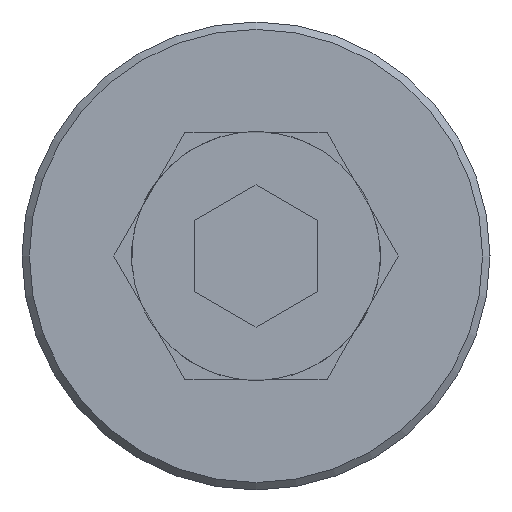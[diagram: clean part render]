
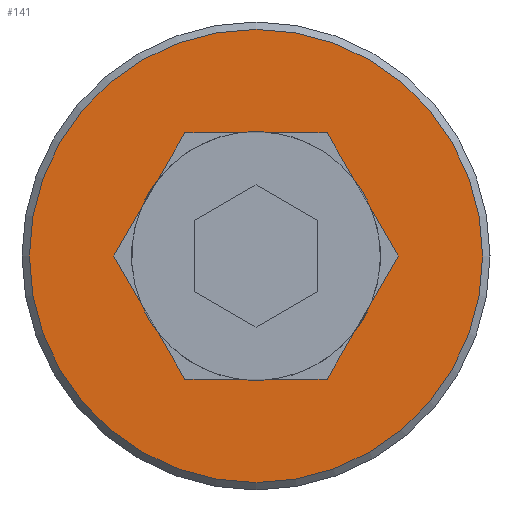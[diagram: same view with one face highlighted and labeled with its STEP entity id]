
A CAD part, left-side view. The second image highlights one B-rep face of the part: STEP entity #141.
In plain terms, the highlighted planar face has unit normal (-1, 0, 0).
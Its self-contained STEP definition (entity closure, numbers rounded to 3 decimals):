
#141 = ADVANCED_FACE( '', ( #294, #295 ), #296, .F. );
#294 = FACE_OUTER_BOUND( '', #441, .T. );
#295 = FACE_BOUND( '', #442, .T. );
#296 = PLANE( '', #443 );
#441 = EDGE_LOOP( '', ( #752 ) );
#442 = EDGE_LOOP( '', ( #753, #754, #755, #756, #757, #758, #759, #760, #761, #762, #763, #764, #765, #766, #767, #768, #769, #770 ) );
#443 = AXIS2_PLACEMENT_3D( '', #771, #772, #773 );
#752 = ORIENTED_EDGE( '', *, *, #866, .F. );
#753 = ORIENTED_EDGE( '', *, *, #886, .T. );
#754 = ORIENTED_EDGE( '', *, *, #913, .T. );
#755 = ORIENTED_EDGE( '', *, *, #837, .T. );
#756 = ORIENTED_EDGE( '', *, *, #895, .T. );
#757 = ORIENTED_EDGE( '', *, *, #803, .T. );
#758 = ORIENTED_EDGE( '', *, *, #901, .T. );
#759 = ORIENTED_EDGE( '', *, *, #893, .T. );
#760 = ORIENTED_EDGE( '', *, *, #859, .T. );
#761 = ORIENTED_EDGE( '', *, *, #796, .T. );
#762 = ORIENTED_EDGE( '', *, *, #892, .T. );
#763 = ORIENTED_EDGE( '', *, *, #812, .T. );
#764 = ORIENTED_EDGE( '', *, *, #842, .T. );
#765 = ORIENTED_EDGE( '', *, *, #890, .T. );
#766 = ORIENTED_EDGE( '', *, *, #831, .T. );
#767 = ORIENTED_EDGE( '', *, *, #910, .T. );
#768 = ORIENTED_EDGE( '', *, *, #888, .T. );
#769 = ORIENTED_EDGE( '', *, *, #844, .T. );
#770 = ORIENTED_EDGE( '', *, *, #880, .T. );
#771 = CARTESIAN_POINT( '', ( 0., 0., 0. ) );
#772 = DIRECTION( '', ( 1., 0., 0. ) );
#773 = DIRECTION( '', ( 0., 0., -1. ) );
#796 = EDGE_CURVE( '', #931, #929, #932, .T. );
#803 = EDGE_CURVE( '', #942, #943, #944, .T. );
#812 = EDGE_CURVE( '', #956, #957, #958, .T. );
#831 = EDGE_CURVE( '', #988, #989, #990, .T. );
#837 = EDGE_CURVE( '', #999, #997, #1000, .T. );
#842 = EDGE_CURVE( '', #957, #1005, #1007, .T. );
#844 = EDGE_CURVE( '', #1009, #1010, #1011, .T. );
#859 = EDGE_CURVE( '', #1033, #931, #1034, .T. );
#866 = EDGE_CURVE( '', #1044, #1044, #1045, .T. );
#880 = EDGE_CURVE( '', #1010, #1061, #1063, .T. );
#886 = EDGE_CURVE( '', #1061, #1071, #1072, .T. );
#888 = EDGE_CURVE( '', #1074, #1009, #1075, .T. );
#890 = EDGE_CURVE( '', #1005, #988, #1077, .T. );
#892 = EDGE_CURVE( '', #929, #956, #1079, .T. );
#893 = EDGE_CURVE( '', #1080, #1033, #1081, .T. );
#895 = EDGE_CURVE( '', #997, #942, #1083, .T. );
#901 = EDGE_CURVE( '', #943, #1080, #1089, .T. );
#910 = EDGE_CURVE( '', #989, #1074, #1099, .T. );
#913 = EDGE_CURVE( '', #1071, #999, #1102, .T. );
#929 = VERTEX_POINT( '', #1121 );
#931 = VERTEX_POINT( '', #1124 );
#932 = LINE( '', #1125, #1126 );
#942 = VERTEX_POINT( '', #1139 );
#943 = VERTEX_POINT( '', #1140 );
#944 = LINE( '', #1141, #1142 );
#956 = VERTEX_POINT( '', #1156 );
#957 = VERTEX_POINT( '', #1157 );
#958 = LINE( '', #1158, #1159 );
#988 = VERTEX_POINT( '', #1198 );
#989 = VERTEX_POINT( '', #1199 );
#990 = LINE( '', #1200, #1201 );
#997 = VERTEX_POINT( '', #1211 );
#999 = VERTEX_POINT( '', #1214 );
#1000 = LINE( '', #1215, #1216 );
#1005 = VERTEX_POINT( '', #1223 );
#1007 = LINE( '', #1226, #1227 );
#1009 = VERTEX_POINT( '', #1229 );
#1010 = VERTEX_POINT( '', #1230 );
#1011 = LINE( '', #1231, #1232 );
#1033 = VERTEX_POINT( '', #1263 );
#1034 = LINE( '', #1264, #1265 );
#1044 = VERTEX_POINT( '', #1277 );
#1045 = CIRCLE( '', #1278, 9.2 );
#1061 = VERTEX_POINT( '', #1296 );
#1063 = LINE( '', #1299, #1300 );
#1071 = VERTEX_POINT( '', #1311 );
#1072 = CIRCLE( '', #1312, 5.05 );
#1074 = VERTEX_POINT( '', #1314 );
#1075 = CIRCLE( '', #1315, 5.05 );
#1077 = CIRCLE( '', #1318, 5.05 );
#1079 = CIRCLE( '', #1320, 5.05 );
#1080 = VERTEX_POINT( '', #1321 );
#1081 = CIRCLE( '', #1322, 5.05 );
#1083 = CIRCLE( '', #1325, 5.05 );
#1089 = LINE( '', #1333, #1334 );
#1099 = LINE( '', #1346, #1347 );
#1102 = LINE( '', #1350, #1351 );
#1121 = CARTESIAN_POINT( '', ( 0., 4.685, 1.886 ) );
#1124 = CARTESIAN_POINT( '', ( 0., 5.774, 0. ) );
#1125 = CARTESIAN_POINT( '', ( 0., 5.774, 0. ) );
#1126 = VECTOR( '', #1363, 1000. );
#1139 = CARTESIAN_POINT( '', ( 0., 0.709, -5. ) );
#1140 = CARTESIAN_POINT( '', ( 0., 2.887, -5. ) );
#1141 = CARTESIAN_POINT( '', ( 0., -2.887, -5. ) );
#1142 = VECTOR( '', #1370, 1000. );
#1156 = CARTESIAN_POINT( '', ( 0., 3.976, 3.114 ) );
#1157 = CARTESIAN_POINT( '', ( 0., 2.887, 5. ) );
#1158 = CARTESIAN_POINT( '', ( 0., 5.774, 0. ) );
#1159 = VECTOR( '', #1382, 1000. );
#1198 = CARTESIAN_POINT( '', ( 0., -0.709, 5. ) );
#1199 = CARTESIAN_POINT( '', ( 0., -2.887, 5. ) );
#1200 = CARTESIAN_POINT( '', ( 0., 2.887, 5. ) );
#1201 = VECTOR( '', #1404, 1000. );
#1211 = CARTESIAN_POINT( '', ( 0., -0.709, -5. ) );
#1214 = CARTESIAN_POINT( '', ( 0., -2.887, -5. ) );
#1215 = CARTESIAN_POINT( '', ( 0., -2.887, -5. ) );
#1216 = VECTOR( '', #1409, 1000. );
#1223 = CARTESIAN_POINT( '', ( 0., 0.709, 5. ) );
#1226 = CARTESIAN_POINT( '', ( 0., 2.887, 5. ) );
#1227 = VECTOR( '', #1413, 1000. );
#1229 = CARTESIAN_POINT( '', ( 0., -4.685, 1.886 ) );
#1230 = CARTESIAN_POINT( '', ( 0., -5.774, 0. ) );
#1231 = CARTESIAN_POINT( '', ( 0., -2.887, 5. ) );
#1232 = VECTOR( '', #1414, 1000. );
#1263 = CARTESIAN_POINT( '', ( 0., 4.685, -1.886 ) );
#1264 = CARTESIAN_POINT( '', ( 0., 2.887, -5. ) );
#1265 = VECTOR( '', #1427, 1000. );
#1277 = CARTESIAN_POINT( '', ( 0., 0., -9.2 ) );
#1278 = AXIS2_PLACEMENT_3D( '', #1436, #1437, #1438 );
#1296 = CARTESIAN_POINT( '', ( 0., -4.685, -1.886 ) );
#1299 = CARTESIAN_POINT( '', ( 0., -5.774, 0. ) );
#1300 = VECTOR( '', #1454, 1000. );
#1311 = CARTESIAN_POINT( '', ( 0., -3.976, -3.114 ) );
#1312 = AXIS2_PLACEMENT_3D( '', #1458, #1459, #1460 );
#1314 = CARTESIAN_POINT( '', ( 0., -3.976, 3.114 ) );
#1315 = AXIS2_PLACEMENT_3D( '', #1464, #1465, #1466 );
#1318 = AXIS2_PLACEMENT_3D( '', #1468, #1469, #1470 );
#1320 = AXIS2_PLACEMENT_3D( '', #1474, #1475, #1476 );
#1321 = CARTESIAN_POINT( '', ( 0., 3.976, -3.114 ) );
#1322 = AXIS2_PLACEMENT_3D( '', #1477, #1478, #1479 );
#1325 = AXIS2_PLACEMENT_3D( '', #1481, #1482, #1483 );
#1333 = CARTESIAN_POINT( '', ( 0., 2.887, -5. ) );
#1334 = VECTOR( '', #1486, 1000. );
#1346 = CARTESIAN_POINT( '', ( 0., -2.887, 5. ) );
#1347 = VECTOR( '', #1492, 1000. );
#1350 = CARTESIAN_POINT( '', ( 0., -5.774, 0. ) );
#1351 = VECTOR( '', #1493, 1000. );
#1363 = DIRECTION( '', ( 0., -0.5, 0.866 ) );
#1370 = DIRECTION( '', ( 0., 1., 0. ) );
#1382 = DIRECTION( '', ( 0., -0.5, 0.866 ) );
#1404 = DIRECTION( '', ( 0., -1., 0. ) );
#1409 = DIRECTION( '', ( 0., 1., 0. ) );
#1413 = DIRECTION( '', ( 0., -1., 0. ) );
#1414 = DIRECTION( '', ( 0., -0.5, -0.866 ) );
#1427 = DIRECTION( '', ( 0., 0.5, 0.866 ) );
#1436 = CARTESIAN_POINT( '', ( 0., 0., 0. ) );
#1437 = DIRECTION( '', ( 1., 0., 0. ) );
#1438 = DIRECTION( '', ( 0., 0., -1. ) );
#1454 = DIRECTION( '', ( 0., 0.5, -0.866 ) );
#1458 = CARTESIAN_POINT( '', ( 0., 0., 0. ) );
#1459 = DIRECTION( '', ( 1., 0., 0. ) );
#1460 = DIRECTION( '', ( 0., 0., -1. ) );
#1464 = CARTESIAN_POINT( '', ( 0., 0., 0. ) );
#1465 = DIRECTION( '', ( 1., 0., 0. ) );
#1466 = DIRECTION( '', ( 0., 0., -1. ) );
#1468 = CARTESIAN_POINT( '', ( 0., 0., 0. ) );
#1469 = DIRECTION( '', ( 1., 0., 0. ) );
#1470 = DIRECTION( '', ( 0., 0., -1. ) );
#1474 = CARTESIAN_POINT( '', ( 0., 0., 0. ) );
#1475 = DIRECTION( '', ( 1., 0., 0. ) );
#1476 = DIRECTION( '', ( 0., 0., -1. ) );
#1477 = CARTESIAN_POINT( '', ( 0., 0., 0. ) );
#1478 = DIRECTION( '', ( 1., 0., 0. ) );
#1479 = DIRECTION( '', ( 0., 0., -1. ) );
#1481 = CARTESIAN_POINT( '', ( 0., 0., 0. ) );
#1482 = DIRECTION( '', ( 1., 0., 0. ) );
#1483 = DIRECTION( '', ( 0., 0., -1. ) );
#1486 = DIRECTION( '', ( 0., 0.5, 0.866 ) );
#1492 = DIRECTION( '', ( 0., -0.5, -0.866 ) );
#1493 = DIRECTION( '', ( 0., 0.5, -0.866 ) );
